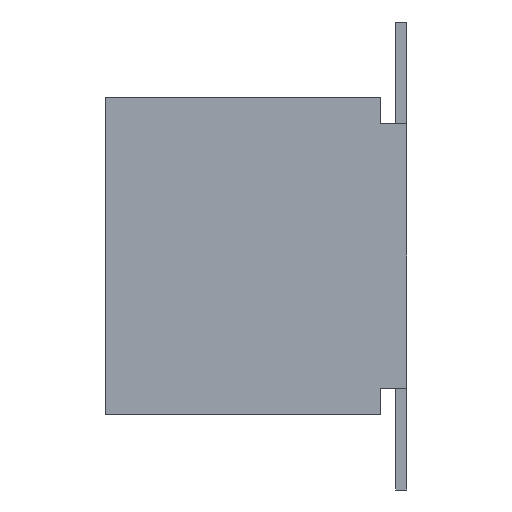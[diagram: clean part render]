
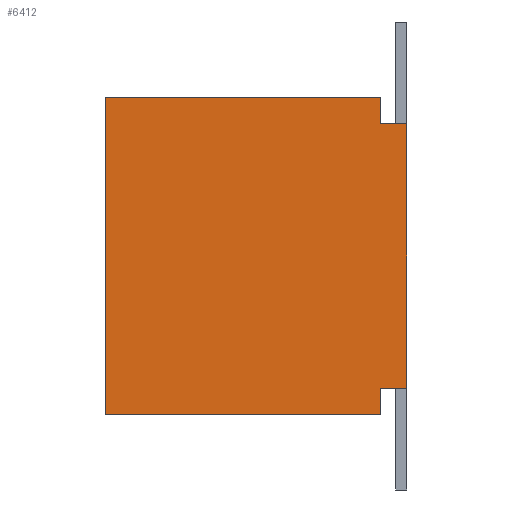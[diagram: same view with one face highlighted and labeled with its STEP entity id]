
A CAD part, left-side view. The second image highlights one B-rep face of the part: STEP entity #6412.
In plain terms, the highlighted planar face has unit normal (-1, 0, 0).
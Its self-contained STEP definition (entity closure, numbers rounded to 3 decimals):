
#9=DIRECTION('',(0.,-1.,0.));
#10=VECTOR('',#9,3.65);
#11=CARTESIAN_POINT('',(-11.,2.,-2.1));
#12=LINE('',#11,#10);
#465=DIRECTION('',(0.,1.,0.));
#466=VECTOR('',#465,0.35);
#467=CARTESIAN_POINT('',(-11.,-2.,1.75));
#468=LINE('',#467,#466);
#469=DIRECTION('',(0.,1.,0.));
#470=VECTOR('',#469,0.35);
#471=CARTESIAN_POINT('',(-11.,-2.,-1.75));
#472=LINE('',#471,#470);
#473=DIRECTION('',(0.,0.,1.));
#474=VECTOR('',#473,0.35);
#475=CARTESIAN_POINT('',(-11.,-1.65,-2.1));
#476=LINE('',#475,#474);
#477=DIRECTION('',(0.,0.,1.));
#478=VECTOR('',#477,4.2);
#479=CARTESIAN_POINT('',(-11.,2.,-2.1));
#480=LINE('',#479,#478);
#481=DIRECTION('',(0.,0.,-1.));
#482=VECTOR('',#481,0.35);
#483=CARTESIAN_POINT('',(-11.,-1.65,2.1));
#484=LINE('',#483,#482);
#557=DIRECTION('',(0.,0.,1.));
#558=VECTOR('',#557,3.5);
#559=CARTESIAN_POINT('',(-11.,-2.,-1.75));
#560=LINE('',#559,#558);
#873=DIRECTION('',(0.,-1.,0.));
#874=VECTOR('',#873,3.65);
#875=CARTESIAN_POINT('',(-11.,2.,2.1));
#876=LINE('',#875,#874);
#4586=CARTESIAN_POINT('',(-11.,2.,-2.1));
#4588=VERTEX_POINT('',#4586);
#4590=CARTESIAN_POINT('',(-11.,2.,2.1));
#4592=VERTEX_POINT('',#4590);
#4897=CARTESIAN_POINT('',(-11.,-2.,1.75));
#4898=CARTESIAN_POINT('',(-11.,-1.65,1.75));
#4899=VERTEX_POINT('',#4897);
#4900=VERTEX_POINT('',#4898);
#4901=CARTESIAN_POINT('',(-11.,-1.65,2.1));
#4902=VERTEX_POINT('',#4901);
#4903=CARTESIAN_POINT('',(-11.,-1.65,-2.1));
#4904=CARTESIAN_POINT('',(-11.,-1.65,-1.75));
#4905=VERTEX_POINT('',#4903);
#4906=VERTEX_POINT('',#4904);
#4907=CARTESIAN_POINT('',(-11.,-2.,-1.75));
#4908=VERTEX_POINT('',#4907);
#6392=CARTESIAN_POINT('',(-11.,2.,-2.1));
#6393=DIRECTION('',(-1.,0.,0.));
#6394=DIRECTION('',(0.,-1.,0.));
#6395=AXIS2_PLACEMENT_3D('',#6392,#6393,#6394);
#6396=PLANE('',#6395);
#6398=ORIENTED_EDGE('',*,*,#6397,.F.);
#6400=ORIENTED_EDGE('',*,*,#6399,.F.);
#6402=ORIENTED_EDGE('',*,*,#6401,.T.);
#6403=ORIENTED_EDGE('',*,*,#6047,.F.);
#6404=ORIENTED_EDGE('',*,*,#6036,.F.);
#6406=ORIENTED_EDGE('',*,*,#6405,.T.);
#6408=ORIENTED_EDGE('',*,*,#6407,.T.);
#6409=ORIENTED_EDGE('',*,*,#6055,.T.);
#6410=EDGE_LOOP('',(#6398,#6400,#6402,#6403,#6404,#6406,#6408,#6409));
#6411=FACE_OUTER_BOUND('',#6410,.F.);
#6412=ADVANCED_FACE('',(#6411),#6396,.T.);
#6036=EDGE_CURVE('',#4588,#4905,#12,.T.);
#6047=EDGE_CURVE('',#4905,#4906,#476,.T.);
#6055=EDGE_CURVE('',#4902,#4900,#484,.T.);
#6397=EDGE_CURVE('',#4899,#4900,#468,.T.);
#6399=EDGE_CURVE('',#4908,#4899,#560,.T.);
#6401=EDGE_CURVE('',#4908,#4906,#472,.T.);
#6405=EDGE_CURVE('',#4588,#4592,#480,.T.);
#6407=EDGE_CURVE('',#4592,#4902,#876,.T.);
